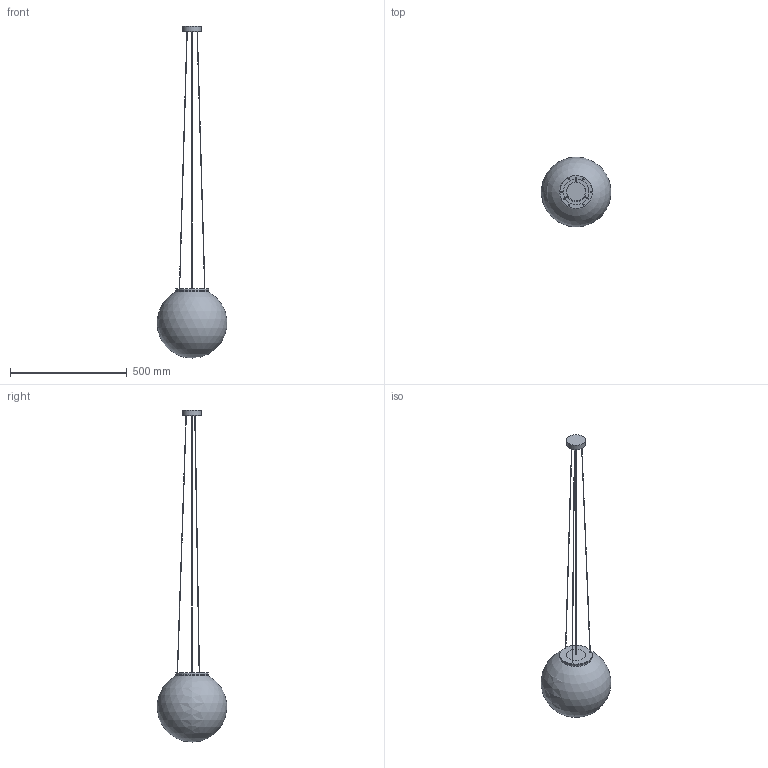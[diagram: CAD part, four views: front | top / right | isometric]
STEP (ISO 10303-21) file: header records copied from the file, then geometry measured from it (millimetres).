
FILE_DESCRIPTION(/* description */ (''),/* implementation_level */ '2;1');
FILE_NAME(/* name */ 'C:/Users/LukasGröber/GMS Cloud/Groeber Mannheim Lichtwerke - Dokumente/Marketing/Produkte/3D Daten/Snowball Pendel Innen/Snowball 30 Pendel Innen.step',/* time_stamp */ '2022-07-08T10:29:32+02:00',/* author */ (''),/* organization */ (''),/* preprocessor_version */ 'ST-DEVELOPER v19',/* originating_system */ 'Autodesk Translation Framework v11.7.0.108',/* authorisation */ '');
FILE_SCHEMA (('AUTOMOTIVE_DESIGN { 1 0 10303 214 3 1 1 }'));
Length unit declared in the file: millimetre
Products named in the file (5): Snowball 30 Pendel Innen; Snowball 300 Öffnung 80; Pendel Innen Aufhängung Kugeln 30-60; Pendel Innen LED Mönskappe (Modell); Baldachin klein Modell
Assembly tree (4 placements, depth 3):
  Snowball 30 Pendel Innen
    Snowball 300 Öffnung 80
    Pendel Innen Aufhängung Kugeln 30-60
      Pendel Innen LED Mönskappe (Modell)
      Baldachin klein Modell
Bounding box: 298.3 x 298.54 x 1420.67 mm (x, y, z)
Volume: 1189895.5 mm3; surface area: 622117.2 mm2
Topology: 7 solids, 7 shells, 53 faces, 85 edges, 57 vertices
Faces by surface type: plane 26, cylinder 18, bspline 6, sphere 2, torus 1
Full cylindrical faces by diameter (mm): 1.5 x6, 3 x3, 5 x6, 80 x1, 82.828 x1, 140 x1
Entity records: 2120 total; most frequent: CARTESIAN_POINT 1008, DIRECTION 218, ORIENTED_EDGE 166, AXIS2_PLACEMENT_3D 100, EDGE_CURVE 83, EDGE_LOOP 66, VERTEX_POINT 57, FACE_OUTER_BOUND 53
